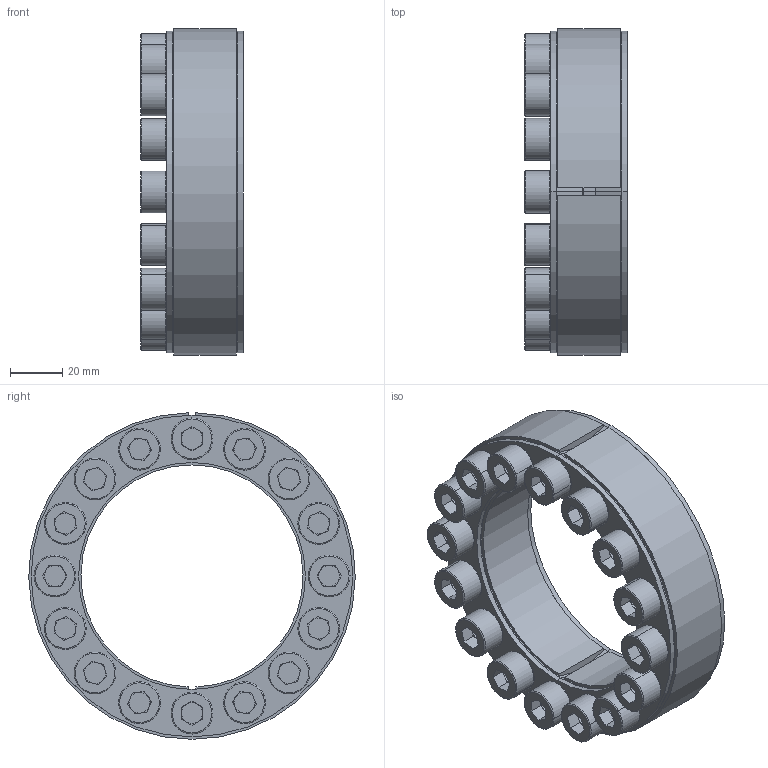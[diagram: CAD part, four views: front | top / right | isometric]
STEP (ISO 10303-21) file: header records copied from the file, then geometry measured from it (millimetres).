
FILE_DESCRIPTION (( 'STEP AP203' ), '1' );
FILE_NAME ('D1-85-125 Assy.STEP', '2017-10-11T06:18:27', ( 'MYCOM' ), ( '' ), 'SwSTEP 2.0', 'SolidWorks 2015', '' );
FILE_SCHEMA (( 'CONFIG_CONTROL_DESIGN' ));
Length unit declared in the file: millimetre
Products named in the file (1): D1-85-125 Assy
Bounding box: 39.2 x 124.99 x 124.98 mm (x, y, z)
Surface area: 72696.9 mm2 (no closed solid volume)
Topology: 0 solids, 36 shells, 408 faces, 1009 edges, 628 vertices
Faces by surface type: plane 225, cylinder 107, torus 64, cone 12
Entity records: 12110 total; most frequent: DIRECTION 2306, CARTESIAN_POINT 2088, ORIENTED_EDGE 1812, EDGE_CURVE 1009, AXIS2_PLACEMENT_3D 896, VERTEX_POINT 628, LINE 514, VECTOR 514
